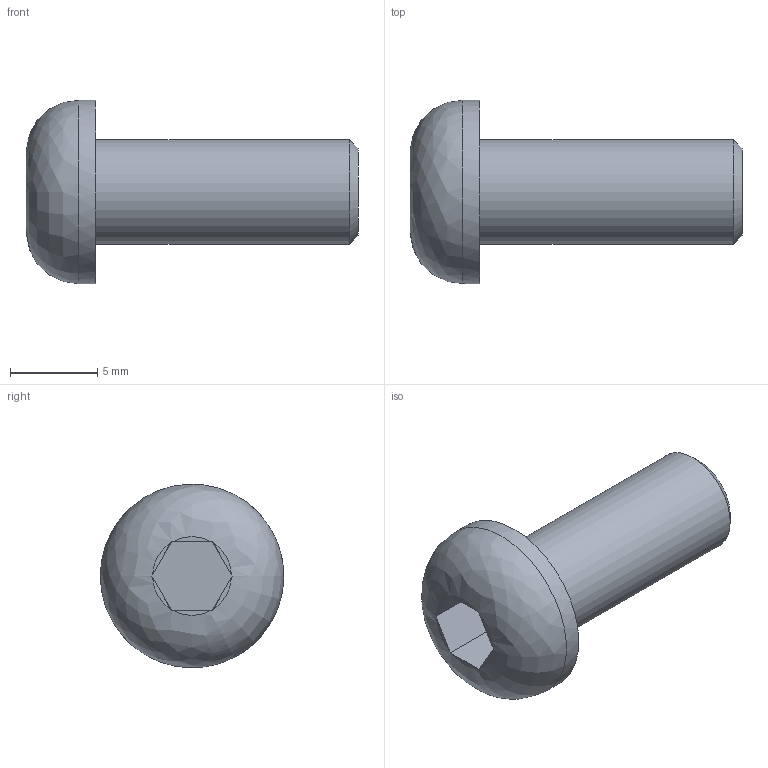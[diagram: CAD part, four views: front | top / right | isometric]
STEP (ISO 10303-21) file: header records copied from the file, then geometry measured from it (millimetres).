
FILE_DESCRIPTION((''),'2;1');
FILE_NAME('C:\Documents and Settings\AMS8\デスクトップ\【修正 20131112 納品】\BCS-06.stp','2013-11-27T18:27:53',('AMS8'),(''),'Autodesk Inventor 2008','Autodesk Inventor 2008','');
FILE_SCHEMA(('AUTOMOTIVE_DESIGN { 1 0 10303 214 1 1 1 1 }'));
Length unit declared in the file: millimetre
Products named in the file (1): BCS-06
Bounding box: 19 x 10.5 x 10.5 mm (x, y, z)
Volume: 657.2 mm3; surface area: 591 mm2
Topology: 1 solids, 1 shells, 19 faces, 48 edges, 32 vertices
Faces by surface type: plane 15, cylinder 2, cone 1, bspline 1
Full cylindrical faces by diameter (mm): 6 x1, 10.5 x1
Entity records: 604 total; most frequent: CARTESIAN_POINT 170, ORIENTED_EDGE 82, DIRECTION 78, EDGE_CURVE 41, AXIS2_PLACEMENT_3D 30, VERTEX_POINT 29, EDGE_LOOP 24, FACE_OUTER_BOUND 19
